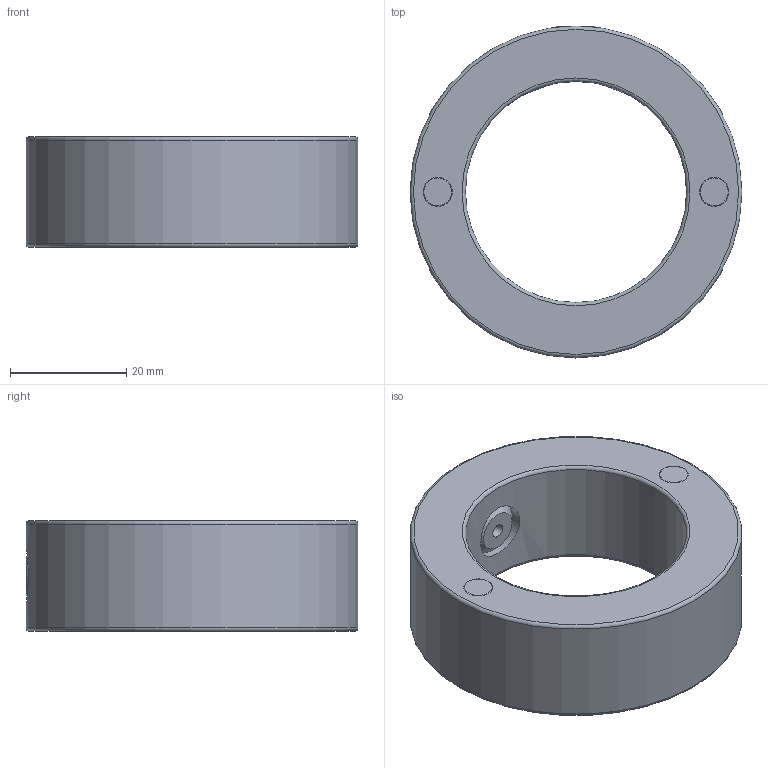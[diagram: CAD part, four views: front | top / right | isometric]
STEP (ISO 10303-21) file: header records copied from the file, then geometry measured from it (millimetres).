
FILE_DESCRIPTION(/* description */ (''),/* implementation_level */ '2;1');
FILE_NAME(/* name */ 'MAG-COL-6-4-CUST-ASSY.step',/* time_stamp */ '2025-10-02T14:50:04-05:00',/* author */ (''),/* organization */ (''),/* preprocessor_version */ 'ST-DEVELOPER v20.1',/* originating_system */ 'Autodesk Translation Framework v14.17.0.0',/* authorisation */ '');
FILE_SCHEMA (('AUTOMOTIVE_DESIGN { 1 0 10303 214 3 1 1 }'));
Length unit declared in the file: inch
Products named in the file (2): MAG-COL-6-4; CYL0159
Assembly tree (2 placements, depth 2):
  MAG-COL-6-4
    CYL0159  x2
Bounding box: 57.15 x 57.15 x 19.05 mm (x, y, z)
Volume: 26621.8 mm3; surface area: 9902.4 mm2
Topology: 4 solids, 4 shells, 34 faces, 71 edges, 46 vertices
Faces by surface type: plane 15, torus 8, cylinder 8, cone 3
Full cylindrical faces by diameter (mm): 5 x4, 9.525 x2, 38.1 x1, 57.15 x1
Entity records: 950 total; most frequent: CARTESIAN_POINT 206, DIRECTION 158, ORIENTED_EDGE 126, AXIS2_PLACEMENT_3D 65, EDGE_CURVE 63, VERTEX_POINT 42, EDGE_LOOP 39, CIRCLE 32
